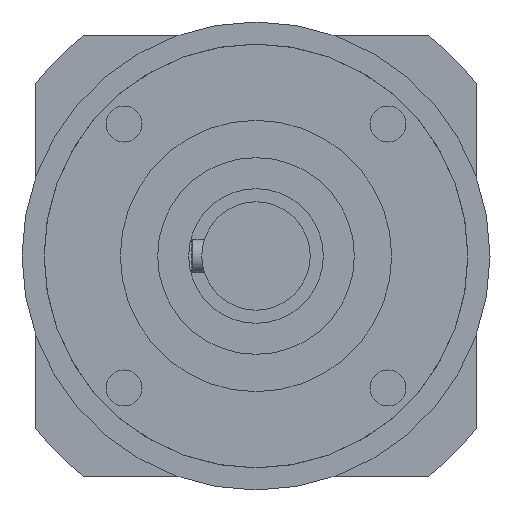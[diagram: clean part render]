
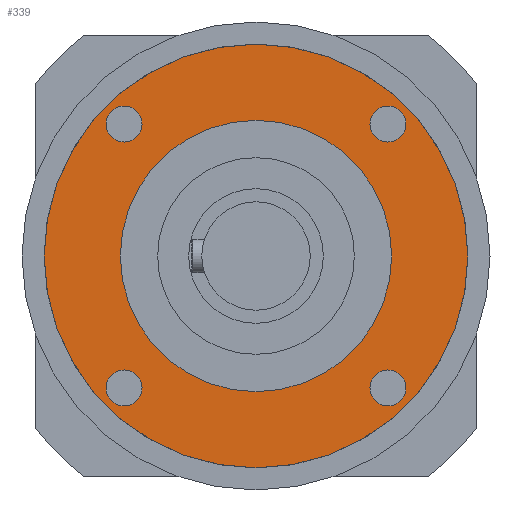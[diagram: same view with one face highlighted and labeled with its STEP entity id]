
A CAD part, left-side view. The second image highlights one B-rep face of the part: STEP entity #339.
In plain terms, the highlighted planar face has unit normal (-1, 0, 0).
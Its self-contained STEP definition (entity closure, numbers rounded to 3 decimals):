
#339=ADVANCED_FACE('',(#567,#568,#569,#570,#571,#468),#414,.T.);
#414=PLANE('',#1518);
#468=FACE_OUTER_BOUND('',#698,.T.);
#567=FACE_BOUND('',#693,.T.);
#568=FACE_BOUND('',#694,.T.);
#569=FACE_BOUND('',#695,.T.);
#570=FACE_BOUND('',#696,.T.);
#571=FACE_BOUND('',#697,.T.);
#693=EDGE_LOOP('',(#895));
#694=EDGE_LOOP('',(#896));
#695=EDGE_LOOP('',(#897));
#696=EDGE_LOOP('',(#898));
#697=EDGE_LOOP('',(#899));
#698=EDGE_LOOP('',(#900));
#895=ORIENTED_EDGE('',*,*,#1254,.F.);
#896=ORIENTED_EDGE('',*,*,#1255,.F.);
#897=ORIENTED_EDGE('',*,*,#1256,.F.);
#898=ORIENTED_EDGE('',*,*,#1257,.F.);
#899=ORIENTED_EDGE('',*,*,#1251,.T.);
#900=ORIENTED_EDGE('',*,*,#1258,.F.);
#1123=VERTEX_POINT('',#2227);
#1126=VERTEX_POINT('',#2235);
#1127=VERTEX_POINT('',#2237);
#1128=VERTEX_POINT('',#2239);
#1129=VERTEX_POINT('',#2241);
#1130=VERTEX_POINT('',#2243);
#1251=EDGE_CURVE('',#1123,#1123,#1380,.T.);
#1254=EDGE_CURVE('',#1126,#1126,#1383,.T.);
#1255=EDGE_CURVE('',#1127,#1127,#1384,.T.);
#1256=EDGE_CURVE('',#1128,#1128,#1385,.T.);
#1257=EDGE_CURVE('',#1129,#1129,#1386,.T.);
#1258=EDGE_CURVE('',#1130,#1130,#1387,.T.);
#1380=CIRCLE('',#1508,40.);
#1383=CIRCLE('',#1513,5.29);
#1384=CIRCLE('',#1514,5.29);
#1385=CIRCLE('',#1515,5.29);
#1386=CIRCLE('',#1516,5.29);
#1387=CIRCLE('',#1517,62.5);
#1508=AXIS2_PLACEMENT_3D('',#2226,#1794,#1795);
#1513=AXIS2_PLACEMENT_3D('',#2234,#1804,#1805);
#1514=AXIS2_PLACEMENT_3D('',#2236,#1806,#1807);
#1515=AXIS2_PLACEMENT_3D('',#2238,#1808,#1809);
#1516=AXIS2_PLACEMENT_3D('',#2240,#1810,#1811);
#1517=AXIS2_PLACEMENT_3D('',#2242,#1812,#1813);
#1518=AXIS2_PLACEMENT_3D('',#2244,#1814,#1815);
#1794=DIRECTION('',(1.,0.,0.));
#1795=DIRECTION('',(0.,0.,-1.));
#1804=DIRECTION('',(-1.,0.,0.));
#1805=DIRECTION('',(0.,0.,-1.));
#1806=DIRECTION('',(-1.,0.,0.));
#1807=DIRECTION('',(0.,0.,-1.));
#1808=DIRECTION('',(-1.,0.,0.));
#1809=DIRECTION('',(0.,0.,-1.));
#1810=DIRECTION('',(-1.,0.,0.));
#1811=DIRECTION('',(0.,0.,-1.));
#1812=DIRECTION('',(1.,0.,0.));
#1813=DIRECTION('',(0.,0.,1.));
#1814=DIRECTION('',(-1.,0.,0.));
#1815=DIRECTION('',(0.,0.,-1.));
#2226=CARTESIAN_POINT('',(-165.5,0.,0.));
#2227=CARTESIAN_POINT('',(-165.5,0.,-40.));
#2234=CARTESIAN_POINT('',(-165.5,-38.891,38.891));
#2235=CARTESIAN_POINT('',(-165.5,-38.891,33.601));
#2236=CARTESIAN_POINT('',(-165.5,38.891,38.891));
#2237=CARTESIAN_POINT('',(-165.5,38.891,33.601));
#2238=CARTESIAN_POINT('',(-165.5,38.891,-38.891));
#2239=CARTESIAN_POINT('',(-165.5,38.891,-44.18));
#2240=CARTESIAN_POINT('',(-165.5,-38.891,-38.891));
#2241=CARTESIAN_POINT('',(-165.5,-38.891,-44.18));
#2242=CARTESIAN_POINT('',(-165.5,0.,0.));
#2243=CARTESIAN_POINT('',(-165.5,0.,62.5));
#2244=CARTESIAN_POINT('',(-165.5,0.,0.));
